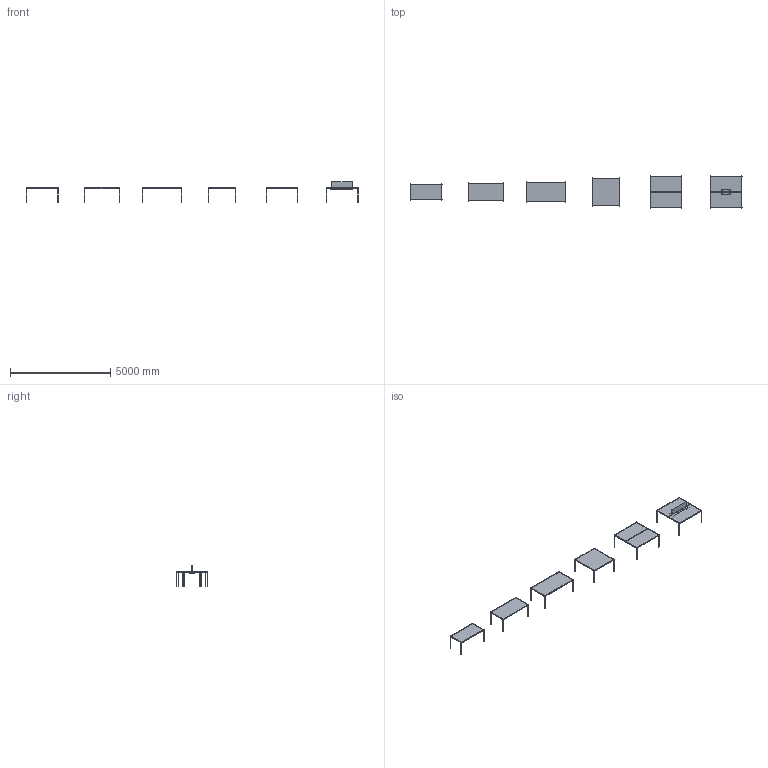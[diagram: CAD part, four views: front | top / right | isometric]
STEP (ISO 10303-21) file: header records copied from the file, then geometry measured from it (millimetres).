
FILE_DESCRIPTION(/* description */ (''),/* implementation_level */ '2;1');
FILE_NAME(/* name */ 'TRUE_Sarek_3D',/* time_stamp */ '2024-12-16T17:06:21+01:00',/* author */ (''),/* organization */ (''),/* preprocessor_version */ 'ST-DEVELOPER v16.5',/* originating_system */ '',/* authorisation */ '');
FILE_SCHEMA (('AP203_CONFIGURATION_CONTROLLED_3D_DESIGN_OF_MECHANICAL_PARTS_AND_ASSEMBLIES_MIM_LF { 1 0 10303 203 3 1 4 }'));
Length unit declared in the file: millimetre
Products named in the file (13): Document; gamba ang; trav 160; trav sost 160; mezzo piano 160 elettr; top access; mezzo piano 160; trav 140; trav 200; trav 100; trav 90; trav 180; trav 80
Assembly tree (41 placements, depth 2):
  Document
    gamba ang  x18
    trav 160  x9
    trav sost 160  x2
    mezzo piano 160 elettr
    top access
    mezzo piano 160
    trav 140  x4
    trav 200
    trav 100
    trav 90
    trav 180
    trav 80
Bounding box: 16600 x 1600 x 1033 mm (x, y, z)
Volume: 170171808.8 mm3; surface area: 38399994.8 mm2
Topology: 116 solids, 116 shells, 2168 faces, 5623 edges, 3679 vertices
Faces by surface type: plane 1347, cylinder 685, bspline 136
Entity records: 29667 total; most frequent: CARTESIAN_POINT 12970, ORIENTED_EDGE 4650, EDGE_CURVE 2325, VERTEX_POINT 1522, B_SPLINE_CURVE_WITH_KNOTS 1271, DIRECTION 985, EDGE_LOOP 947, AXIS2_PLACEMENT_3D 917
